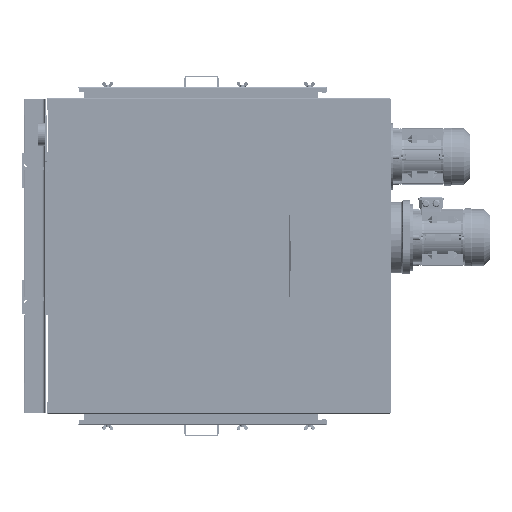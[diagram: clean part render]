
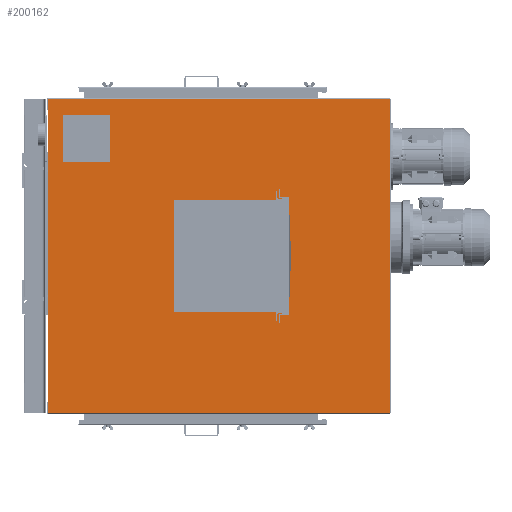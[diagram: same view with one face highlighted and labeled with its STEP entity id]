
A CAD part, left-side view. The second image highlights one B-rep face of the part: STEP entity #200162.
In plain terms, the highlighted planar face has unit normal (-1, 0, 0).
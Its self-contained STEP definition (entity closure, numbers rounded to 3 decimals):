
#4418=PLANE('',#211795);
#10949=FACE_BOUND('',#32995,.T.);
#10950=FACE_BOUND('',#32996,.T.);
#10951=FACE_BOUND('',#32997,.T.);
#10952=FACE_BOUND('',#32998,.T.);
#10953=FACE_BOUND('',#32999,.T.);
#10954=FACE_BOUND('',#33000,.T.);
#13125=CIRCLE('',#211796,6.5);
#13126=CIRCLE('',#211797,6.5);
#13127=CIRCLE('',#211798,6.5);
#13128=CIRCLE('',#211799,6.5);
#20960=FACE_OUTER_BOUND('',#32994,.T.);
#32994=EDGE_LOOP('',(#142835,#142836,#142837,#142838));
#32995=EDGE_LOOP('',(#142839));
#32996=EDGE_LOOP('',(#142840));
#32997=EDGE_LOOP('',(#142841));
#32998=EDGE_LOOP('',(#142842));
#32999=EDGE_LOOP('',(#142843,#142844,#142845,#142846));
#33000=EDGE_LOOP('',(#142847,#142848,#142849,#142850,#142851,#142852,#142853,
#142854,#142855,#142856,#142857,#142858));
#48899=LINE('',#291733,#66657);
#48909=LINE('',#291761,#66667);
#48916=LINE('',#291774,#66674);
#48932=LINE('',#291818,#66690);
#48933=LINE('',#291821,#66691);
#48935=LINE('',#291826,#66693);
#48936=LINE('',#291828,#66694);
#48937=LINE('',#291830,#66695);
#48938=LINE('',#291831,#66696);
#48939=LINE('',#291842,#66697);
#48940=LINE('',#291844,#66698);
#48941=LINE('',#291846,#66699);
#48942=LINE('',#291847,#66700);
#48943=LINE('',#291849,#66701);
#48944=LINE('',#291851,#66702);
#48945=LINE('',#291853,#66703);
#48946=LINE('',#291855,#66704);
#48947=LINE('',#291857,#66705);
#48948=LINE('',#291859,#66706);
#48949=LINE('',#291860,#66707);
#66657=VECTOR('',#237855,3.);
#66667=VECTOR('',#237879,3.);
#66674=VECTOR('',#237890,342.);
#66690=VECTOR('',#237926,30.);
#66691=VECTOR('',#237929,30.);
#66693=VECTOR('',#237933,1524.);
#66694=VECTOR('',#237934,1398.);
#66695=VECTOR('',#237935,1524.);
#66696=VECTOR('',#237936,1398.);
#66697=VECTOR('',#237945,152.);
#66698=VECTOR('',#237946,152.);
#66699=VECTOR('',#237947,152.);
#66700=VECTOR('',#237948,152.);
#66701=VECTOR('',#237949,472.);
#66702=VECTOR('',#237950,30.);
#66703=VECTOR('',#237951,3.);
#66704=VECTOR('',#237952,342.);
#66705=VECTOR('',#237953,3.);
#66706=VECTOR('',#237954,30.);
#66707=VECTOR('',#237955,472.);
#86391=VERTEX_POINT('',#291730);
#86392=VERTEX_POINT('',#291732);
#86402=VERTEX_POINT('',#291758);
#86403=VERTEX_POINT('',#291760);
#86425=VERTEX_POINT('',#291816);
#86426=VERTEX_POINT('',#291820);
#86427=VERTEX_POINT('',#291824);
#86428=VERTEX_POINT('',#291825);
#86429=VERTEX_POINT('',#291827);
#86430=VERTEX_POINT('',#291829);
#86431=VERTEX_POINT('',#291832);
#86432=VERTEX_POINT('',#291834);
#86433=VERTEX_POINT('',#291836);
#86434=VERTEX_POINT('',#291838);
#86435=VERTEX_POINT('',#291840);
#86436=VERTEX_POINT('',#291841);
#86437=VERTEX_POINT('',#291843);
#86438=VERTEX_POINT('',#291845);
#86439=VERTEX_POINT('',#291848);
#86440=VERTEX_POINT('',#291850);
#86441=VERTEX_POINT('',#291852);
#86442=VERTEX_POINT('',#291854);
#86443=VERTEX_POINT('',#291856);
#86444=VERTEX_POINT('',#291858);
#107318=EDGE_CURVE('',#86392,#86391,#48899,.T.);
#107331=EDGE_CURVE('',#86403,#86402,#48909,.T.);
#107338=EDGE_CURVE('',#86402,#86392,#48916,.T.);
#107360=EDGE_CURVE('',#86391,#86425,#48932,.T.);
#107361=EDGE_CURVE('',#86426,#86403,#48933,.T.);
#107363=EDGE_CURVE('',#86427,#86428,#48935,.T.);
#107364=EDGE_CURVE('',#86428,#86429,#48936,.T.);
#107365=EDGE_CURVE('',#86429,#86430,#48937,.T.);
#107366=EDGE_CURVE('',#86430,#86427,#48938,.T.);
#107367=EDGE_CURVE('',#86431,#86431,#13125,.T.);
#107368=EDGE_CURVE('',#86432,#86432,#13126,.T.);
#107369=EDGE_CURVE('',#86433,#86433,#13127,.T.);
#107370=EDGE_CURVE('',#86434,#86434,#13128,.T.);
#107371=EDGE_CURVE('',#86435,#86436,#48939,.T.);
#107372=EDGE_CURVE('',#86436,#86437,#48940,.T.);
#107373=EDGE_CURVE('',#86437,#86438,#48941,.T.);
#107374=EDGE_CURVE('',#86438,#86435,#48942,.T.);
#107375=EDGE_CURVE('',#86425,#86439,#48943,.T.);
#107376=EDGE_CURVE('',#86439,#86440,#48944,.T.);
#107377=EDGE_CURVE('',#86440,#86441,#48945,.T.);
#107378=EDGE_CURVE('',#86441,#86442,#48946,.T.);
#107379=EDGE_CURVE('',#86442,#86443,#48947,.T.);
#107380=EDGE_CURVE('',#86443,#86444,#48948,.T.);
#107381=EDGE_CURVE('',#86444,#86426,#48949,.T.);
#142835=ORIENTED_EDGE('',*,*,#107363,.T.);
#142836=ORIENTED_EDGE('',*,*,#107364,.T.);
#142837=ORIENTED_EDGE('',*,*,#107365,.T.);
#142838=ORIENTED_EDGE('',*,*,#107366,.T.);
#142839=ORIENTED_EDGE('',*,*,#107367,.T.);
#142840=ORIENTED_EDGE('',*,*,#107368,.T.);
#142841=ORIENTED_EDGE('',*,*,#107369,.T.);
#142842=ORIENTED_EDGE('',*,*,#107370,.T.);
#142843=ORIENTED_EDGE('',*,*,#107371,.T.);
#142844=ORIENTED_EDGE('',*,*,#107372,.T.);
#142845=ORIENTED_EDGE('',*,*,#107373,.T.);
#142846=ORIENTED_EDGE('',*,*,#107374,.T.);
#142847=ORIENTED_EDGE('',*,*,#107331,.T.);
#142848=ORIENTED_EDGE('',*,*,#107338,.T.);
#142849=ORIENTED_EDGE('',*,*,#107318,.T.);
#142850=ORIENTED_EDGE('',*,*,#107360,.T.);
#142851=ORIENTED_EDGE('',*,*,#107375,.T.);
#142852=ORIENTED_EDGE('',*,*,#107376,.T.);
#142853=ORIENTED_EDGE('',*,*,#107377,.T.);
#142854=ORIENTED_EDGE('',*,*,#107378,.T.);
#142855=ORIENTED_EDGE('',*,*,#107379,.T.);
#142856=ORIENTED_EDGE('',*,*,#107380,.T.);
#142857=ORIENTED_EDGE('',*,*,#107381,.T.);
#142858=ORIENTED_EDGE('',*,*,#107361,.T.);
#200162=ADVANCED_FACE('',(#20960,#10949,#10950,#10951,#10952,#10953,#10954),
#4418,.F.);
#211795=AXIS2_PLACEMENT_3D('',#291823,#237931,#237932);
#211796=AXIS2_PLACEMENT_3D('',#291833,#237937,#237938);
#211797=AXIS2_PLACEMENT_3D('',#291835,#237939,#237940);
#211798=AXIS2_PLACEMENT_3D('',#291837,#237941,#237942);
#211799=AXIS2_PLACEMENT_3D('',#291839,#237943,#237944);
#237855=DIRECTION('',(0.,0.,-1.));
#237879=DIRECTION('',(0.,0.,1.));
#237890=DIRECTION('',(0.,-1.,0.));
#237926=DIRECTION('',(0.,-1.,0.));
#237929=DIRECTION('',(0.,-1.,0.));
#237931=DIRECTION('center_axis',(1.,0.,0.));
#237932=DIRECTION('ref_axis',(0.,1.,0.));
#237933=DIRECTION('',(0.,1.,0.));
#237934=DIRECTION('',(0.,0.,-1.));
#237935=DIRECTION('',(0.,-1.,0.));
#237936=DIRECTION('',(0.,0.,1.));
#237937=DIRECTION('center_axis',(1.,0.,0.));
#237938=DIRECTION('ref_axis',(0.,1.,0.));
#237939=DIRECTION('center_axis',(1.,0.,0.));
#237940=DIRECTION('ref_axis',(0.,1.,0.));
#237941=DIRECTION('center_axis',(1.,0.,0.));
#237942=DIRECTION('ref_axis',(0.,1.,0.));
#237943=DIRECTION('center_axis',(1.,0.,0.));
#237944=DIRECTION('ref_axis',(0.,1.,0.));
#237945=DIRECTION('',(0.,0.,-1.));
#237946=DIRECTION('',(0.,1.,0.));
#237947=DIRECTION('',(0.,0.,1.));
#237948=DIRECTION('',(0.,-1.,0.));
#237949=DIRECTION('',(0.,0.,-1.));
#237950=DIRECTION('',(0.,1.,0.));
#237951=DIRECTION('',(0.,0.,-1.));
#237952=DIRECTION('',(0.,1.,0.));
#237953=DIRECTION('',(0.,0.,1.));
#237954=DIRECTION('',(0.,1.,0.));
#237955=DIRECTION('',(0.,0.,1.));
#291730=CARTESIAN_POINT('',(-1943.466,-380.675,660.613));
#291732=CARTESIAN_POINT('',(-1943.466,-380.675,663.613));
#291733=CARTESIAN_POINT('',(-1943.466,-380.675,544.113));
#291758=CARTESIAN_POINT('',(-1943.466,-38.675,663.613));
#291760=CARTESIAN_POINT('',(-1943.466,-38.675,660.613));
#291761=CARTESIAN_POINT('',(-1943.466,-38.675,525.113));
#291774=CARTESIAN_POINT('',(-1943.466,-118.675,663.613));
#291816=CARTESIAN_POINT('',(-1943.466,-410.675,660.613));
#291818=CARTESIAN_POINT('',(-1943.466,-304.675,660.613));
#291820=CARTESIAN_POINT('',(-1943.466,-8.675,660.613));
#291821=CARTESIAN_POINT('',(-1943.466,-304.675,660.613));
#291823=CARTESIAN_POINT('Origin',(-1943.466,-198.675,424.613));
#291824=CARTESIAN_POINT('',(-1943.466,-960.675,1123.613));
#291825=CARTESIAN_POINT('',(-1943.466,563.325,1123.613));
#291826=CARTESIAN_POINT('',(-1943.466,-579.675,1123.613));
#291827=CARTESIAN_POINT('',(-1943.466,563.325,-274.387));
#291828=CARTESIAN_POINT('',(-1943.466,563.325,1125.613));
#291829=CARTESIAN_POINT('',(-1943.466,-960.675,-274.387));
#291830=CARTESIAN_POINT('',(-1943.466,182.325,-274.387));
#291831=CARTESIAN_POINT('',(-1943.466,-960.675,-276.387));
#291832=CARTESIAN_POINT('',(-1943.466,295.025,1037.813));
#291833=CARTESIAN_POINT('Origin',(-1943.466,301.525,1037.813));
#291834=CARTESIAN_POINT('',(-1943.466,473.025,859.813));
#291835=CARTESIAN_POINT('Origin',(-1943.466,479.525,859.813));
#291836=CARTESIAN_POINT('',(-1943.466,473.025,1037.813));
#291837=CARTESIAN_POINT('Origin',(-1943.466,479.525,1037.813));
#291838=CARTESIAN_POINT('',(-1943.466,295.025,859.813));
#291839=CARTESIAN_POINT('Origin',(-1943.466,301.525,859.813));
#291840=CARTESIAN_POINT('',(-1943.466,314.525,1024.813));
#291841=CARTESIAN_POINT('',(-1943.466,314.525,872.813));
#291842=CARTESIAN_POINT('',(-1943.466,314.525,648.713));
#291843=CARTESIAN_POINT('',(-1943.466,466.525,872.813));
#291844=CARTESIAN_POINT('',(-1943.466,133.925,872.813));
#291845=CARTESIAN_POINT('',(-1943.466,466.525,1024.813));
#291846=CARTESIAN_POINT('',(-1943.466,466.525,724.713));
#291847=CARTESIAN_POINT('',(-1943.466,57.925,1024.813));
#291848=CARTESIAN_POINT('',(-1943.466,-410.675,188.613));
#291849=CARTESIAN_POINT('',(-1943.466,-410.675,306.613));
#291850=CARTESIAN_POINT('',(-1943.466,-380.675,188.613));
#291851=CARTESIAN_POINT('',(-1943.466,-103.675,188.613));
#291852=CARTESIAN_POINT('',(-1943.466,-380.675,185.613));
#291853=CARTESIAN_POINT('',(-1943.466,-380.675,324.113));
#291854=CARTESIAN_POINT('',(-1943.466,-38.675,185.613));
#291855=CARTESIAN_POINT('',(-1943.466,-289.675,185.613));
#291856=CARTESIAN_POINT('',(-1943.466,-38.675,188.613));
#291857=CARTESIAN_POINT('',(-1943.466,-38.675,305.113));
#291858=CARTESIAN_POINT('',(-1943.466,-8.675,188.613));
#291859=CARTESIAN_POINT('',(-1943.466,-103.675,188.613));
#291860=CARTESIAN_POINT('',(-1943.466,-8.675,542.613));
